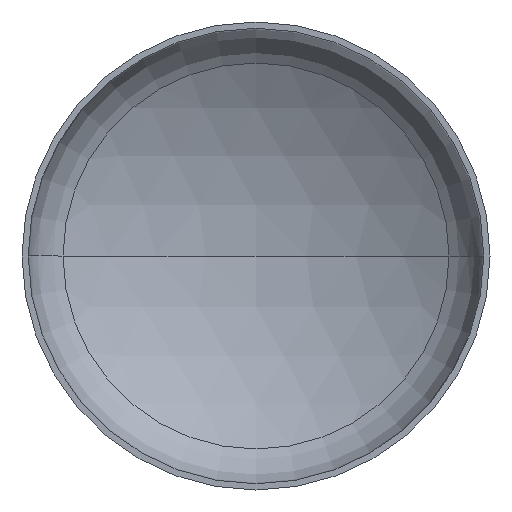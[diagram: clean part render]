
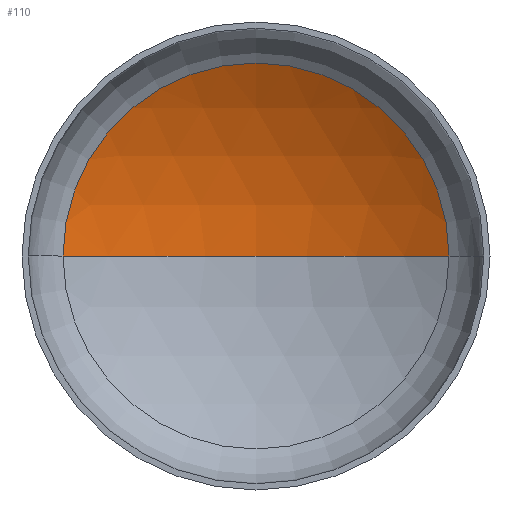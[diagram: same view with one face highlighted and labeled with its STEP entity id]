
A CAD part, front view. The second image highlights one B-rep face of the part: STEP entity #110.
In plain terms, the highlighted spherical face has radius 2400 mm.
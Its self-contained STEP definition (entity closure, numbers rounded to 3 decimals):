
#16 = AXIS2_PLACEMENT_3D ( 'NONE', #379, #245, #400 ) ;
#22 = AXIS2_PLACEMENT_3D ( 'NONE', #176, #332, #197 ) ;
#31 = ORIENTED_EDGE ( 'NONE', *, *, #364, .T. ) ;
#38 = CARTESIAN_POINT ( 'NONE',  ( 0., 514.179, 0. ) ) ;
#43 = ORIENTED_EDGE ( 'NONE', *, *, #367, .F. ) ;
#63 = VERTEX_POINT ( 'NONE', #324 ) ;
#64 = VERTEX_POINT ( 'NONE', #159 ) ;
#79 = AXIS2_PLACEMENT_3D ( 'NONE', #38, #308, #380 ) ;
#86 = EDGE_LOOP ( 'NONE', ( #43, #31, #273 ) ) ;
#104 = CIRCLE ( 'NONE', #16, 2400. ) ;
#108 = AXIS2_PLACEMENT_3D ( 'NONE', #251, #255, #249 ) ;
#110 = ADVANCED_FACE ( 'NONE', ( #148 ), #147, .F. ) ;
#118 = VERTEX_POINT ( 'NONE', #277 ) ;
#138 = EDGE_CURVE ( 'NONE', #118, #64, #139, .T. ) ;
#139 = CIRCLE ( 'NONE', #79, 1237.113 ) ;
#147 = SPHERICAL_SURFACE ( 'NONE', #108, 2400. ) ;
#148 = FACE_OUTER_BOUND ( 'NONE', #86, .T. ) ;
#159 = CARTESIAN_POINT ( 'NONE',  ( -1237.113, 514.179, 0. ) ) ;
#176 = CARTESIAN_POINT ( 'NONE',  ( 0., -1542.408, 0. ) ) ;
#197 = DIRECTION ( 'NONE',  ( -1., 0., 0. ) ) ;
#199 = CIRCLE ( 'NONE', #22, 2400. ) ;
#245 = DIRECTION ( 'NONE',  ( 0., 0., 1. ) ) ;
#249 = DIRECTION ( 'NONE',  ( -1., 0., 0. ) ) ;
#251 = CARTESIAN_POINT ( 'NONE',  ( 0., -1542.408, 0. ) ) ;
#255 = DIRECTION ( 'NONE',  ( 0., 0., -1. ) ) ;
#273 = ORIENTED_EDGE ( 'NONE', *, *, #138, .T. ) ;
#277 = CARTESIAN_POINT ( 'NONE',  ( 1237.113, 514.179, 0. ) ) ;
#308 = DIRECTION ( 'NONE',  ( 0., -1., 0. ) ) ;
#324 = CARTESIAN_POINT ( 'NONE',  ( 0., 857.592, 0. ) ) ;
#332 = DIRECTION ( 'NONE',  ( 0., 0., -1. ) ) ;
#364 = EDGE_CURVE ( 'NONE', #63, #118, #199, .T. ) ;
#367 = EDGE_CURVE ( 'NONE', #63, #64, #104, .T. ) ;
#379 = CARTESIAN_POINT ( 'NONE',  ( 0., -1542.408, 0. ) ) ;
#380 = DIRECTION ( 'NONE',  ( 1., 0., 0. ) ) ;
#400 = DIRECTION ( 'NONE',  ( 1., 0., 0. ) ) ;
